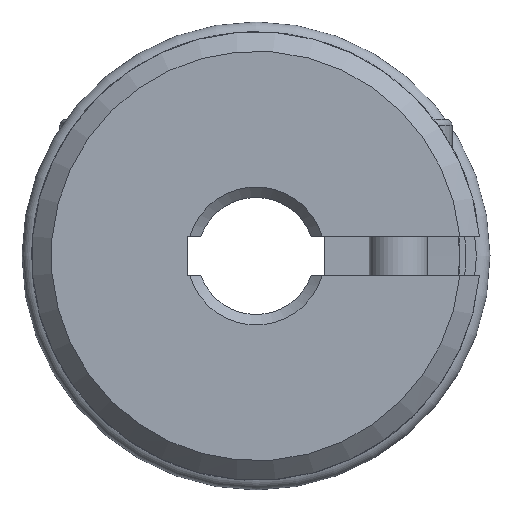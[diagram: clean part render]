
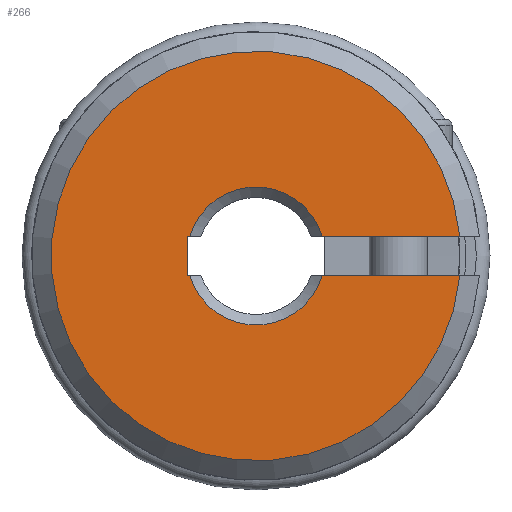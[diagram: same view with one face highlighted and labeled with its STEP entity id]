
A CAD part, left-side view. The second image highlights one B-rep face of the part: STEP entity #266.
In plain terms, the highlighted planar face has unit normal (-1, 0, 0).
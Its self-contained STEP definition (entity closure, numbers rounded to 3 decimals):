
#266 = ADVANCED_FACE( '', ( #601 ), #602, .T. );
#601 = FACE_OUTER_BOUND( '', #990, .T. );
#602 = PLANE( '', #991 );
#990 = EDGE_LOOP( '', ( #1659, #1660, #1661, #1662, #1663, #1664, #1665, #1666 ) );
#991 = AXIS2_PLACEMENT_3D( '', #1667, #1668, #1669 );
#1659 = ORIENTED_EDGE( '', *, *, #2276, .T. );
#1660 = ORIENTED_EDGE( '', *, *, #2102, .T. );
#1661 = ORIENTED_EDGE( '', *, *, #2026, .T. );
#1662 = ORIENTED_EDGE( '', *, *, #2277, .F. );
#1663 = ORIENTED_EDGE( '', *, *, #2074, .T. );
#1664 = ORIENTED_EDGE( '', *, *, #2065, .T. );
#1665 = ORIENTED_EDGE( '', *, *, #2278, .T. );
#1666 = ORIENTED_EDGE( '', *, *, #2279, .T. );
#1667 = CARTESIAN_POINT( '', ( -14.782, 0., 2. ) );
#1668 = DIRECTION( '', ( -1., 0., 0. ) );
#1669 = DIRECTION( '', ( 0., -1., 0. ) );
#2026 = EDGE_CURVE( '', #2359, #2360, #2361, .T. );
#2065 = EDGE_CURVE( '', #2423, #2427, #2429, .F. );
#2074 = EDGE_CURVE( '', #2442, #2423, #2443, .T. );
#2102 = EDGE_CURVE( '', #2486, #2359, #2489, .F. );
#2276 = EDGE_CURVE( '', #2750, #2486, #2751, .T. );
#2277 = EDGE_CURVE( '', #2442, #2360, #2752, .T. );
#2278 = EDGE_CURVE( '', #2427, #2753, #2754, .T. );
#2279 = EDGE_CURVE( '', #2753, #2750, #2755, .T. );
#2359 = VERTEX_POINT( '', #2845 );
#2360 = VERTEX_POINT( '', #2846 );
#2361 = LINE( '', #2847, #2848 );
#2423 = VERTEX_POINT( '', #2931 );
#2427 = VERTEX_POINT( '', #2938 );
#2429 = CIRCLE( '', #2943, 3.54 );
#2442 = VERTEX_POINT( '', #2961 );
#2443 = LINE( '', #2962, #2963 );
#2486 = VERTEX_POINT( '', #3017 );
#2489 = CIRCLE( '', #3023, 3.54 );
#2750 = VERTEX_POINT( '', #3444 );
#2751 = LINE( '', #3445, #3446 );
#2752 = CIRCLE( '', #3447, 10.5 );
#2753 = VERTEX_POINT( '', #3448 );
#2754 = LINE( '', #3449, #3450 );
#2755 = LINE( '', #3451, #3452 );
#2845 = CARTESIAN_POINT( '', ( -14.782, -3.396, 1. ) );
#2846 = CARTESIAN_POINT( '', ( -14.782, -10.452, 1. ) );
#2847 = CARTESIAN_POINT( '', ( -14.782, 0., 1. ) );
#2848 = VECTOR( '', #3713, 1000. );
#2931 = CARTESIAN_POINT( '', ( -14.782, -3.396, -1. ) );
#2938 = CARTESIAN_POINT( '', ( -14.782, 3.396, -1. ) );
#2943 = AXIS2_PLACEMENT_3D( '', #3779, #3780, #3781 );
#2961 = CARTESIAN_POINT( '', ( -14.782, -10.452, -1. ) );
#2962 = CARTESIAN_POINT( '', ( -14.782, -18., -1. ) );
#2963 = VECTOR( '', #3793, 1000. );
#3017 = CARTESIAN_POINT( '', ( -14.782, 3.396, 1. ) );
#3023 = AXIS2_PLACEMENT_3D( '', #3838, #3839, #3840 );
#3444 = CARTESIAN_POINT( '', ( -14.782, 3.5, 1. ) );
#3445 = CARTESIAN_POINT( '', ( -14.782, 3.5, 1. ) );
#3446 = VECTOR( '', #4051, 1000. );
#3447 = AXIS2_PLACEMENT_3D( '', #4052, #4053, #4054 );
#3448 = CARTESIAN_POINT( '', ( -14.782, 3.5, -1. ) );
#3449 = CARTESIAN_POINT( '', ( -14.782, 0., -1. ) );
#3450 = VECTOR( '', #4055, 1000. );
#3451 = CARTESIAN_POINT( '', ( -14.782, 3.5, -1. ) );
#3452 = VECTOR( '', #4056, 1000. );
#3713 = DIRECTION( '', ( 0., -1., 0. ) );
#3779 = CARTESIAN_POINT( '', ( -14.782, 0., 0. ) );
#3780 = DIRECTION( '', ( -1., 0., 0. ) );
#3781 = DIRECTION( '', ( 0., -1., 0. ) );
#3793 = DIRECTION( '', ( 0., 1., 0. ) );
#3838 = CARTESIAN_POINT( '', ( -14.782, 0., 0. ) );
#3839 = DIRECTION( '', ( -1., 0., 0. ) );
#3840 = DIRECTION( '', ( 0., -1., 0. ) );
#4051 = DIRECTION( '', ( 0., -1., 0. ) );
#4052 = CARTESIAN_POINT( '', ( -14.782, 0., 0. ) );
#4053 = DIRECTION( '', ( 1., 0., 0. ) );
#4054 = DIRECTION( '', ( 0., 0., 1. ) );
#4055 = DIRECTION( '', ( 0., 1., 0. ) );
#4056 = DIRECTION( '', ( 0., 0., 1. ) );
